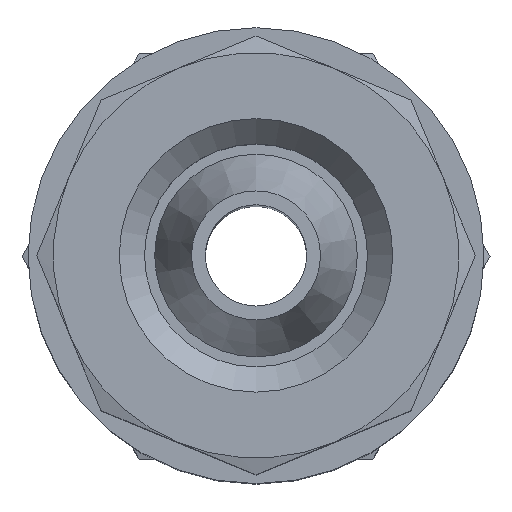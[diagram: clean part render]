
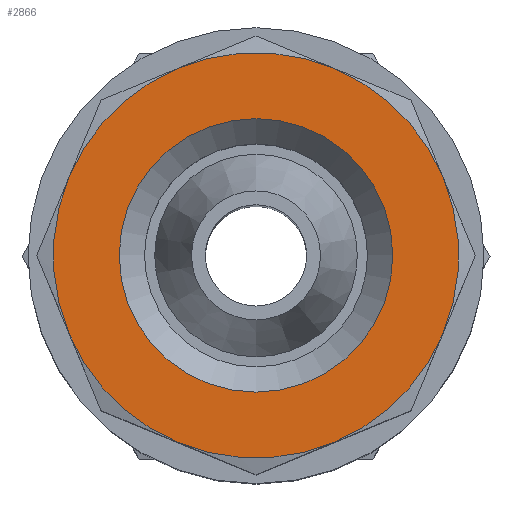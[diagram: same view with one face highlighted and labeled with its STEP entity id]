
A CAD part, top view. The second image highlights one B-rep face of the part: STEP entity #2866.
In plain terms, the highlighted planar face has unit normal (0, 0, 1) as drawn and (0, 1, 0) by its records, which use the part's own axes.
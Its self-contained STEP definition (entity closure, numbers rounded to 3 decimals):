
#824=PLANE('',#2766);
#984=ORIENTED_EDGE('',*,*,#1274,.T.);
#985=ORIENTED_EDGE('',*,*,#1275,.T.);
#986=ORIENTED_EDGE('',*,*,#1276,.F.);
#987=ORIENTED_EDGE('',*,*,#1277,.T.);
#988=ORIENTED_EDGE('',*,*,#1278,.T.);
#989=ORIENTED_EDGE('',*,*,#1279,.T.);
#990=ORIENTED_EDGE('',*,*,#1280,.T.);
#991=ORIENTED_EDGE('',*,*,#1281,.T.);
#992=ORIENTED_EDGE('',*,*,#1273,.T.);
#1103=CIRCLE('',#2765,2.7);
#1104=CIRCLE('',#2767,4.);
#1105=CIRCLE('',#2768,4.);
#1106=CIRCLE('',#2769,4.);
#1107=CIRCLE('',#2770,4.);
#1108=CIRCLE('',#2771,4.);
#1109=CIRCLE('',#2772,4.);
#1110=CIRCLE('',#2773,4.);
#1111=CIRCLE('',#2774,4.);
#1175=VERTEX_POINT('',#2572);
#1176=VERTEX_POINT('',#2575);
#1177=VERTEX_POINT('',#2576);
#1178=VERTEX_POINT('',#2578);
#1179=VERTEX_POINT('',#2580);
#1180=VERTEX_POINT('',#2582);
#1181=VERTEX_POINT('',#2584);
#1182=VERTEX_POINT('',#2586);
#1183=VERTEX_POINT('',#2588);
#1273=EDGE_CURVE('',#1175,#1175,#1103,.T.);
#1274=EDGE_CURVE('',#1176,#1177,#1104,.T.);
#1275=EDGE_CURVE('',#1177,#1178,#1105,.T.);
#1276=EDGE_CURVE('',#1179,#1178,#1106,.T.);
#1277=EDGE_CURVE('',#1179,#1180,#1107,.T.);
#1278=EDGE_CURVE('',#1180,#1181,#1108,.T.);
#1279=EDGE_CURVE('',#1181,#1182,#1109,.T.);
#1280=EDGE_CURVE('',#1182,#1183,#1110,.T.);
#1281=EDGE_CURVE('',#1183,#1176,#1111,.T.);
#1387=EDGE_LOOP('',(#984,#985,#986,#987,#988,#989,#990,#991));
#1388=EDGE_LOOP('',(#992));
#1489=FACE_BOUND('',#1387,.T.);
#1490=FACE_BOUND('',#1388,.T.);
#2274=DIRECTION('',(0.,-1.,0.));
#2275=DIRECTION('',(0.,0.,-2.7));
#2276=DIRECTION('',(0.,1.,0.));
#2277=DIRECTION('',(1.,0.,0.));
#2278=DIRECTION('',(0.,1.,0.));
#2279=DIRECTION('',(0.,0.,-4.));
#2280=DIRECTION('',(0.,1.,0.));
#2281=DIRECTION('',(0.,0.,-4.));
#2282=DIRECTION('',(0.,-1.,0.));
#2283=DIRECTION('',(0.,0.,4.));
#2284=DIRECTION('',(0.,1.,0.));
#2285=DIRECTION('',(0.,0.,-4.));
#2286=DIRECTION('',(0.,1.,0.));
#2287=DIRECTION('',(0.,0.,-4.));
#2288=DIRECTION('',(0.,1.,0.));
#2289=DIRECTION('',(0.,0.,-4.));
#2290=DIRECTION('',(0.,1.,0.));
#2291=DIRECTION('',(0.,0.,-4.));
#2292=DIRECTION('',(0.,1.,0.));
#2293=DIRECTION('',(0.,0.,-4.));
#2572=CARTESIAN_POINT('',(7.334,14.045,-2.7));
#2573=CARTESIAN_POINT('',(7.334,14.045,0.));
#2574=CARTESIAN_POINT('',(11.334,14.045,0.));
#2575=CARTESIAN_POINT('',(5.803,14.045,3.696));
#2576=CARTESIAN_POINT('',(8.865,14.045,3.696));
#2577=CARTESIAN_POINT('',(7.334,14.045,0.));
#2578=CARTESIAN_POINT('',(11.03,14.045,1.531));
#2579=CARTESIAN_POINT('',(7.334,14.045,0.));
#2580=CARTESIAN_POINT('',(11.03,14.045,-1.531));
#2581=CARTESIAN_POINT('',(7.334,14.045,0.));
#2582=CARTESIAN_POINT('',(8.865,14.045,-3.696));
#2583=CARTESIAN_POINT('',(7.334,14.045,0.));
#2584=CARTESIAN_POINT('',(5.803,14.045,-3.696));
#2585=CARTESIAN_POINT('',(7.334,14.045,0.));
#2586=CARTESIAN_POINT('',(3.639,14.045,-1.531));
#2587=CARTESIAN_POINT('',(7.334,14.045,0.));
#2588=CARTESIAN_POINT('',(3.639,14.045,1.531));
#2589=CARTESIAN_POINT('',(7.334,14.045,0.));
#2590=CARTESIAN_POINT('',(7.334,14.045,0.));
#2765=AXIS2_PLACEMENT_3D('',#2573,#2274,#2275);
#2766=AXIS2_PLACEMENT_3D('',#2574,#2276,#2277);
#2767=AXIS2_PLACEMENT_3D('',#2577,#2278,#2279);
#2768=AXIS2_PLACEMENT_3D('',#2579,#2280,#2281);
#2769=AXIS2_PLACEMENT_3D('',#2581,#2282,#2283);
#2770=AXIS2_PLACEMENT_3D('',#2583,#2284,#2285);
#2771=AXIS2_PLACEMENT_3D('',#2585,#2286,#2287);
#2772=AXIS2_PLACEMENT_3D('',#2587,#2288,#2289);
#2773=AXIS2_PLACEMENT_3D('',#2589,#2290,#2291);
#2774=AXIS2_PLACEMENT_3D('',#2590,#2292,#2293);
#2866=ADVANCED_FACE('',(#1489,#1490),#824,.T.);
